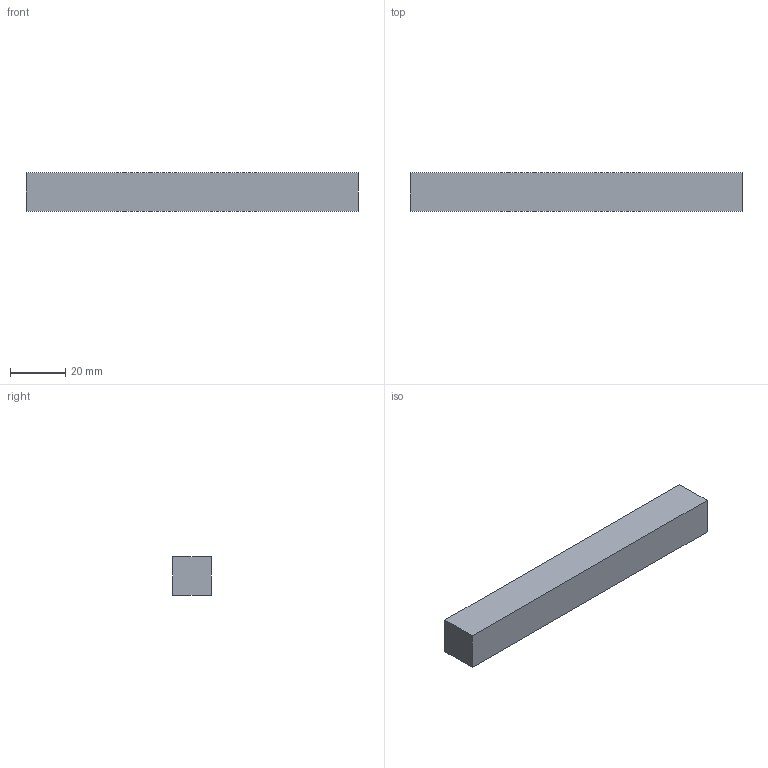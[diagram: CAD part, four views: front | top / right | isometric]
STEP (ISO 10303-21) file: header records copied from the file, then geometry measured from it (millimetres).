
FILE_DESCRIPTION(('FreeCAD Model'),'2;1');
FILE_NAME('Open CASCADE Shape Model','2026-10-20T16:17:42',('FreeCAD'),( 'FreeCAD'),'Open CASCADE STEP processor 7.8','FreeCAD','Unknown');
FILE_SCHEMA(('AUTOMOTIVE_DESIGN { 1 0 10303 214 1 1 1 1 }'));
Length unit declared in the file: millimetre
Products named in the file (1): Open CASCADE STEP translator 7.8 4
Bounding box: 120 x 14 x 14 mm (x, y, z)
Volume: 23520 mm3; surface area: 7112 mm2
Topology: 1 solids, 1 shells, 6 faces, 12 edges, 8 vertices
Faces by surface type: plane 6
Entity records: 166 total; most frequent: CARTESIAN_POINT 27, DIRECTION 26, ORIENTED_EDGE 24, EDGE_CURVE 12, LINE 12, VECTOR 12, VERTEX_POINT 8, AXIS2_PLACEMENT_3D 7
